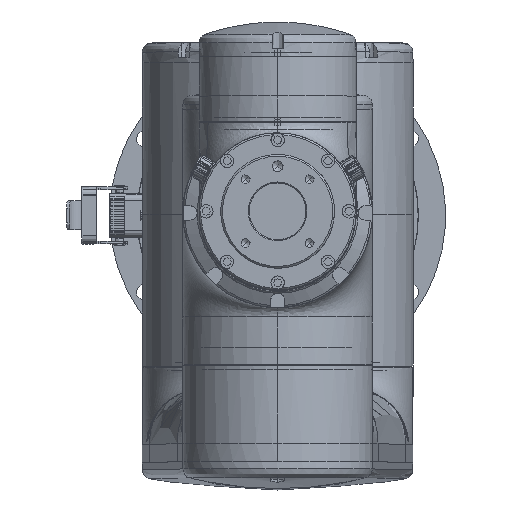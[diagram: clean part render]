
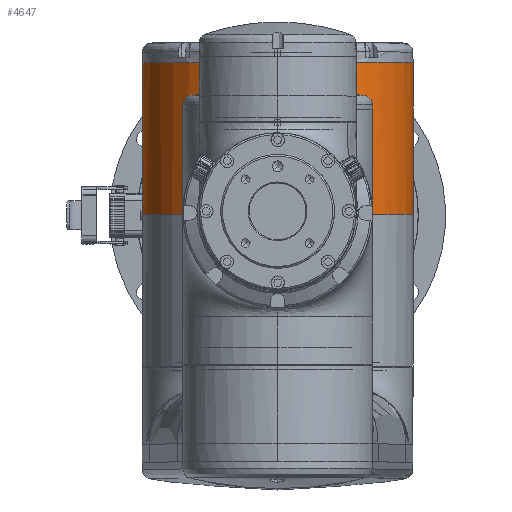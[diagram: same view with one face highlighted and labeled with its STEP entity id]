
A CAD part, top view. The second image highlights one B-rep face of the part: STEP entity #4647.
In plain terms, the highlighted cylindrical face has radius 75 mm (diameter 150 mm), a partial arc.
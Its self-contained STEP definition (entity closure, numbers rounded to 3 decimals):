
#4647=ADVANCED_FACE('',(#7239),#44343,.T.);
#7239=FACE_OUTER_BOUND('',#10242,.T.);
#10242=EDGE_LOOP('',(#21808,#21809,#21810,#21811,#21812));
#21808=ORIENTED_EDGE('',*,*,#29749,.F.);
#21809=ORIENTED_EDGE('',*,*,#29738,.F.);
#21810=ORIENTED_EDGE('',*,*,#29678,.F.);
#21811=ORIENTED_EDGE('',*,*,#29605,.F.);
#21812=ORIENTED_EDGE('',*,*,#29753,.T.);
#29605=EDGE_CURVE('',#41420,#41421,#37216,.T.);
#29678=EDGE_CURVE('',#41421,#41483,#37243,.T.);
#29738=EDGE_CURVE('',#41483,#41500,#35766,.T.);
#29749=EDGE_CURVE('',#41500,#41511,#37258,.T.);
#29753=EDGE_CURVE('',#41420,#41511,#35776,.T.);
#35766=B_SPLINE_CURVE_WITH_KNOTS('',3,(#165510,#165511,#165512,#165513,
#165514,#165515,#165516,#165517,#165518,#165519,#165520,#165521,#165522,
#165523,#165524,#165525,#165526,#165527,#165528,#165529,#165530,#165531),
 .UNSPECIFIED.,.F.,.F.,(4,2,2,2,2,2,2,2,2,2,4),(0.,2.625,5.25,
10.5,21.,42.,63.,73.5,
78.75,81.375,84.),.UNSPECIFIED.);
#35776=B_SPLINE_CURVE_WITH_KNOTS('',3,(#165937,#165938,#165939,#165940,
#165941,#165942,#165943,#165944,#165945,#165946,#165947,#165948,#165949,
#165950,#165951,#165952,#165953,#165954,#165955,#165956,#165957,#165958),
 .UNSPECIFIED.,.F.,.F.,(4,2,2,2,2,2,2,2,2,2,4),(-84.,-81.375,
-78.75,-73.5,-63.,-42.,-21.,
-10.5,-5.25,-2.625,0.),.UNSPECIFIED.);
#37216=(
BOUNDED_CURVE()
B_SPLINE_CURVE(2,(#164450,#164451,#164452,#164453,#164454),
 .UNSPECIFIED.,.F.,.F.)
B_SPLINE_CURVE_WITH_KNOTS((3,2,3),(0.,62.132,124.264),
 .UNSPECIFIED.)
CURVE()
GEOMETRIC_REPRESENTATION_ITEM()
RATIONAL_B_SPLINE_CURVE((1.,0.924,1.,0.924,1.))
REPRESENTATION_ITEM('')
);
#37243=(
BOUNDED_CURVE()
B_SPLINE_CURVE(2,(#164821,#164822,#164823,#164824,#164825),
 .UNSPECIFIED.,.F.,.F.)
B_SPLINE_CURVE_WITH_KNOTS((3,2,3),(0.,62.132,124.264),
 .UNSPECIFIED.)
CURVE()
GEOMETRIC_REPRESENTATION_ITEM()
RATIONAL_B_SPLINE_CURVE((1.,0.924,1.,0.924,1.))
REPRESENTATION_ITEM('')
);
#37258=(
BOUNDED_CURVE()
B_SPLINE_CURVE(2,(#165676,#165677,#165678,#165679,#165680),
 .UNSPECIFIED.,.F.,.F.)
B_SPLINE_CURVE_WITH_KNOTS((3,2,3),(-300.,-150.,0.),
 .UNSPECIFIED.)
CURVE()
GEOMETRIC_REPRESENTATION_ITEM()
RATIONAL_B_SPLINE_CURVE((1.,0.707,1.,0.707,1.))
REPRESENTATION_ITEM('')
);
#41420=VERTEX_POINT('',#164067);
#41421=VERTEX_POINT('',#164068);
#41483=VERTEX_POINT('',#164130);
#41500=VERTEX_POINT('',#164147);
#41511=VERTEX_POINT('',#164158);
#44343=CYLINDRICAL_SURFACE('',#47128,75.);
#47128=AXIS2_PLACEMENT_3D('',#142814,#49409,$);
#49409=DIRECTION('',(0.,1.,0.));
#142814=CARTESIAN_POINT('',(0.,42.,337.));
#164067=CARTESIAN_POINT('',(-75.,84.,337.));
#164068=CARTESIAN_POINT('',(0.,84.,412.));
#164130=CARTESIAN_POINT('',(75.,84.,337.));
#164147=CARTESIAN_POINT('',(75.,0.,337.));
#164158=CARTESIAN_POINT('',(-75.,0.,337.));
#164450=CARTESIAN_POINT('',(-75.,84.,337.));
#164451=CARTESIAN_POINT('',(-75.,84.,368.066));
#164452=CARTESIAN_POINT('',(-53.033,84.,390.033));
#164453=CARTESIAN_POINT('',(-31.066,84.,412.));
#164454=CARTESIAN_POINT('',(0.,84.,412.));
#164821=CARTESIAN_POINT('',(0.,84.,412.));
#164822=CARTESIAN_POINT('',(31.066,84.,412.));
#164823=CARTESIAN_POINT('',(53.033,84.,390.033));
#164824=CARTESIAN_POINT('',(75.,84.,368.066));
#164825=CARTESIAN_POINT('',(75.,84.,337.));
#165510=CARTESIAN_POINT('',(75.,84.,337.));
#165511=CARTESIAN_POINT('',(74.998,83.123,337.002));
#165512=CARTESIAN_POINT('',(74.999,82.249,337.001));
#165513=CARTESIAN_POINT('',(74.999,80.499,337.001));
#165514=CARTESIAN_POINT('',(74.999,79.624,337.001));
#165515=CARTESIAN_POINT('',(74.999,76.999,337.001));
#165516=CARTESIAN_POINT('',(74.999,75.249,337.001));
#165517=CARTESIAN_POINT('',(74.999,69.999,337.001));
#165518=CARTESIAN_POINT('',(74.999,66.499,337.001));
#165519=CARTESIAN_POINT('',(74.999,55.999,337.001));
#165520=CARTESIAN_POINT('',(74.999,48.999,337.001));
#165521=CARTESIAN_POINT('',(75.,34.999,337.001));
#165522=CARTESIAN_POINT('',(75.,27.999,337.001));
#165523=CARTESIAN_POINT('',(75.,17.499,337.001));
#165524=CARTESIAN_POINT('',(75.,13.999,337.001));
#165525=CARTESIAN_POINT('',(75.,8.749,337.001));
#165526=CARTESIAN_POINT('',(75.,6.999,337.001));
#165527=CARTESIAN_POINT('',(75.,4.374,337.001));
#165528=CARTESIAN_POINT('',(75.,3.499,337.001));
#165529=CARTESIAN_POINT('',(75.,1.749,337.001));
#165530=CARTESIAN_POINT('',(75.,0.873,337.002));
#165531=CARTESIAN_POINT('',(75.,0.,337.));
#165676=CARTESIAN_POINT('',(75.,0.,337.));
#165677=CARTESIAN_POINT('',(75.,0.,412.));
#165678=CARTESIAN_POINT('',(0.,0.,412.));
#165679=CARTESIAN_POINT('',(-75.,0.,412.));
#165680=CARTESIAN_POINT('',(-75.,0.,337.));
#165937=CARTESIAN_POINT('',(-75.,84.,337.));
#165938=CARTESIAN_POINT('',(-74.998,83.123,337.002));
#165939=CARTESIAN_POINT('',(-74.999,82.249,337.001));
#165940=CARTESIAN_POINT('',(-74.999,80.499,337.001));
#165941=CARTESIAN_POINT('',(-74.999,79.624,337.001));
#165942=CARTESIAN_POINT('',(-74.999,76.999,337.001));
#165943=CARTESIAN_POINT('',(-74.999,75.249,337.001));
#165944=CARTESIAN_POINT('',(-74.999,69.999,337.001));
#165945=CARTESIAN_POINT('',(-74.999,66.499,337.001));
#165946=CARTESIAN_POINT('',(-74.999,55.999,337.001));
#165947=CARTESIAN_POINT('',(-74.999,48.999,337.001));
#165948=CARTESIAN_POINT('',(-75.,34.999,337.001));
#165949=CARTESIAN_POINT('',(-75.,27.999,337.001));
#165950=CARTESIAN_POINT('',(-75.,17.499,337.001));
#165951=CARTESIAN_POINT('',(-75.,13.999,337.001));
#165952=CARTESIAN_POINT('',(-75.,8.749,337.001));
#165953=CARTESIAN_POINT('',(-75.,6.999,337.001));
#165954=CARTESIAN_POINT('',(-75.,4.374,337.001));
#165955=CARTESIAN_POINT('',(-75.,3.499,337.001));
#165956=CARTESIAN_POINT('',(-75.,1.749,337.001));
#165957=CARTESIAN_POINT('',(-75.,0.873,337.002));
#165958=CARTESIAN_POINT('',(-75.,0.,337.));
